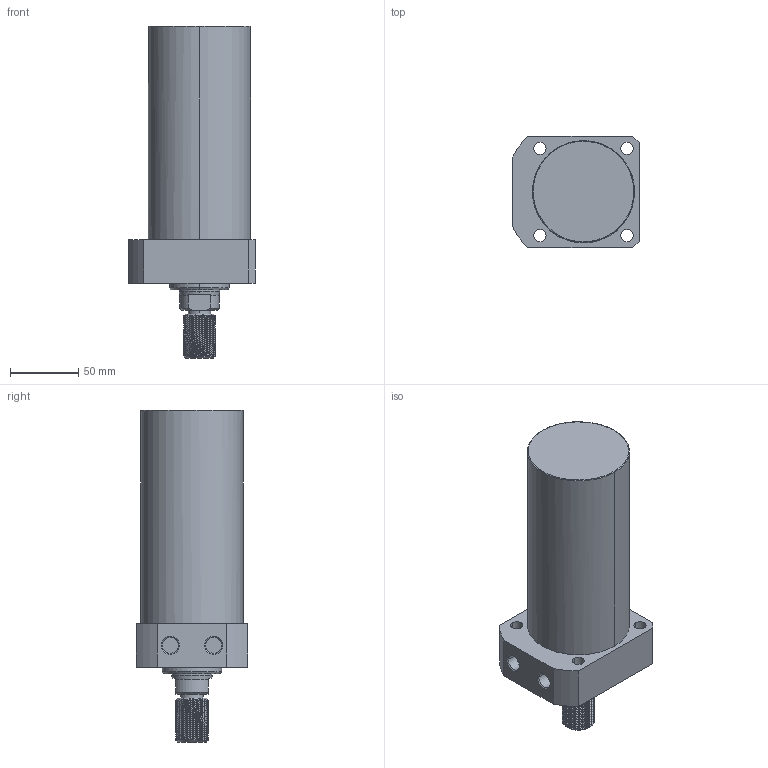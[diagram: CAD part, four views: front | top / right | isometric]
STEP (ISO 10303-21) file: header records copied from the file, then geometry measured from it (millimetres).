
FILE_DESCRIPTION((' '),'2;1');
FILE_NAME( 'TLLR-075CT-120.STEP.stp', '2025-10-24T16:35:12', (' '), ('--- Datakit www.datakit.com---'), ' Datakit CrossCadWare V2024.1 Dec 21 2023', 'Mastercam 2025', ' ');
FILE_SCHEMA(('AUTOMOTIVE_DESIGN { 1 0 10303 214 1 1 1 1 }'));
Length unit declared in the file: millimetre
Products named in the file (1): TLLR-075CT-120
Bounding box: 93 x 82 x 244 mm (x, y, z)
Volume: 950595.5 mm3; surface area: 73099.5 mm2
Topology: 1 solids, 1 shells, 110 faces, 400 edges, 301 vertices
Faces by surface type: cylinder 69, plane 21, cone 16, torus 2, bspline 2
Entity records: 12991 total; most frequent: CARTESIAN_POINT 9597, ORIENTED_EDGE 800, DIRECTION 550, EDGE_CURVE 400, VERTEX_POINT 301, AXIS2_PLACEMENT_3D 222, B_SPLINE_CURVE_WITH_KNOTS 181, EDGE_LOOP 127
